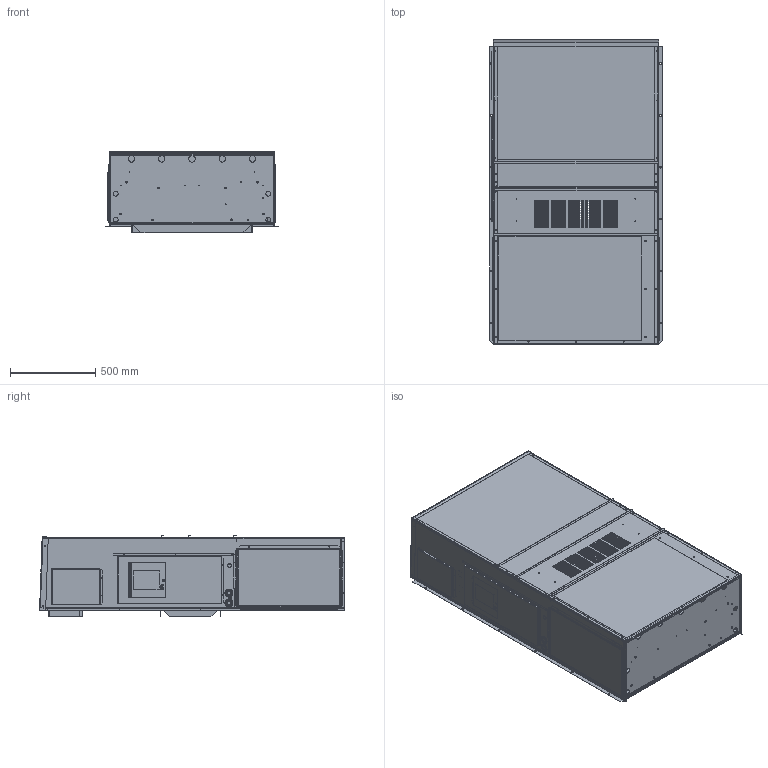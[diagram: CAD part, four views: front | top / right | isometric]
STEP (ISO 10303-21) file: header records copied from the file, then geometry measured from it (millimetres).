
FILE_DESCRIPTION (( 'STEP AP203' ), '1' );
FILE_NAME ('STEP_500.STEP', '2016-06-20T15:37:58', ( '' ), ( '' ), 'SwSTEP 2.0', 'SolidWorks 2016', '' );
FILE_SCHEMA (( 'CONFIG_CONTROL_DESIGN' ));
Products named in the file (1): STEP_500
Bounding box: 1015.56 x 1792.28 x 477.94 mm (x, y, z)
Volume: 7507425.2 mm3; surface area: 15387178.2 mm2
Topology: 28 solids, 28 shells, 3514 faces, 9742 edges, 6338 vertices
Faces by surface type: cylinder 1507, plane 1284, bspline 723
Entity records: 135953 total; most frequent: CARTESIAN_POINT 44646, ORIENTED_EDGE 19484, DIRECTION 18534, EDGE_CURVE 9742, AXIS2_PLACEMENT_3D 6766, VERTEX_POINT 6338, LINE 5002, VECTOR 5002
